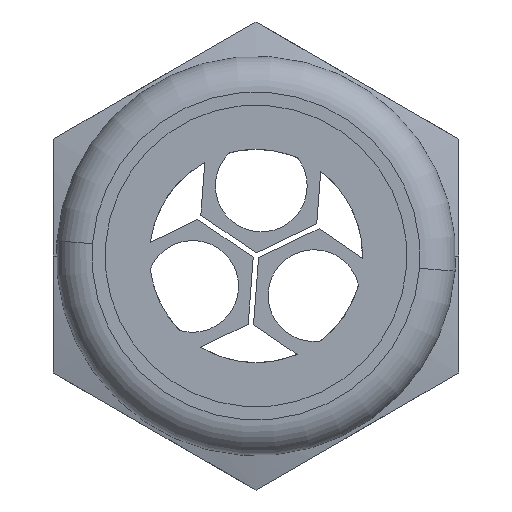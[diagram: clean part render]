
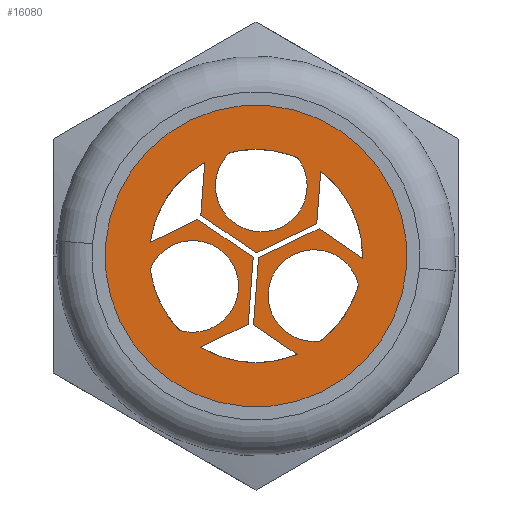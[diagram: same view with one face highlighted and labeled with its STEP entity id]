
A CAD part, left-side view. The second image highlights one B-rep face of the part: STEP entity #16080.
In plain terms, the highlighted planar face has unit normal (-1, 0, 0).
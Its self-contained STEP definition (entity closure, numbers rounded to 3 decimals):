
#100=CARTESIAN_POINT('',(-74.471,-192.811,
-8.545));
#110=VERTEX_POINT('',#100);
#290=CARTESIAN_POINT('',(-74.471,-190.835,
-6.969));
#300=VERTEX_POINT('',#290);
#330=CARTESIAN_POINT('',(-74.471,-198.006,
0.));
#340=DIRECTION('',(1.,0.,0.));
#350=DIRECTION('',(0.,0.,-1.));
#360=AXIS2_PLACEMENT_3D('',#330,#340,#350);
#370=CIRCLE('',#360,10.);
#380=CARTESIAN_POINT('',(-74.471,-188.084,
-1.248));
#390=VERTEX_POINT('',#380);
#400=EDGE_CURVE('',#300,#390,#370,.T.);
#580=CARTESIAN_POINT('',(-74.471,-188.088,
1.279));
#590=VERTEX_POINT('',#580);
#620=CARTESIAN_POINT('',(-74.471,-193.204,
8.771));
#630=VERTEX_POINT('',#620);
#640=EDGE_CURVE('',#590,#630,#370,.T.);
#870=CARTESIAN_POINT('',(-74.471,-195.556,
9.695));
#880=VERTEX_POINT('',#870);
#910=CARTESIAN_POINT('',(-74.471,-198.006,10.));
#920=VERTEX_POINT('',#910);
#930=EDGE_CURVE('',#880,#920,#370,.T.);
#1160=CARTESIAN_POINT('',(-74.471,-198.006,-10.));
#1170=VERTEX_POINT('',#1160);
#1200=EDGE_CURVE('',#1170,#110,#370,.T.);
#12880=CARTESIAN_POINT('',(-74.471,-198.244,
-0.163));
#12890=VERTEX_POINT('',#12880);
#13060=CARTESIAN_POINT('',(-74.471,-203.916,
2.564));
#13070=VERTEX_POINT('',#13060);
#13100=CARTESIAN_POINT('',(-74.471,-618.738,
201.992));
#13110=DIRECTION('',(0.,0.901,
-0.433));
#13120=VECTOR('',#13110,1.);
#13130=LINE('',#13100,#13120);
#13140=EDGE_CURVE('',#13070,#12890,#13130,.T.);
#14420=CARTESIAN_POINT('',(-74.471,-206.825,
-7.785));
#14430=DIRECTION('',(-1.,-0.,0.));
#14440=DIRECTION('',(0.,-1.,0.));
#14450=AXIS2_PLACEMENT_3D('',#14420,#14430,#14440);
#14460=PLANE('',#14450);
#14470=CARTESIAN_POINT('',(-74.471,-198.006,
0.));
#14480=DIRECTION('',(1.,0.,0.));
#14490=DIRECTION('',(0.,0.997,
0.075));
#14500=AXIS2_PLACEMENT_3D('',#14470,#14480,#14490);
#14510=CIRCLE('',#14500,14.15);
#14520=CARTESIAN_POINT('',(-74.471,-183.896,
1.067));
#14530=VERTEX_POINT('',#14520);
#14540=CARTESIAN_POINT('',(-74.471,-212.116,
-1.067));
#14550=VERTEX_POINT('',#14540);
#14560=EDGE_CURVE('',#14530,#14550,#14510,.T.);
#14570=ORIENTED_EDGE('',*,*,#14560,.F.);
#14580=EDGE_CURVE('',#14550,#14530,#14510,.T.);
#14590=ORIENTED_EDGE('',*,*,#14580,.F.);
#14600=EDGE_LOOP('',(#14590,#14570));
#14610=FACE_OUTER_BOUND('',#14600,.T.);
#14620=CARTESIAN_POINT('',(-74.471,-203.44,
-0.411));
#14630=DIRECTION('',(0.,-0.075,
0.997));
#14640=VECTOR('',#14630,1.);
#14650=LINE('',#14620,#14640);
#14660=CARTESIAN_POINT('',(-74.471,-203.699,
3.015));
#14670=VERTEX_POINT('',#14660);
#14680=CARTESIAN_POINT('',(-74.471,-204.073,
7.95));
#14690=VERTEX_POINT('',#14680);
#14700=EDGE_CURVE('',#14670,#14690,#14650,.T.);
#14710=ORIENTED_EDGE('',*,*,#14700,.T.);
#14720=CARTESIAN_POINT('',(-74.471,-618.782,
202.568));
#14730=DIRECTION('',(0.,-0.901,
0.433));
#14740=VECTOR('',#14730,1.);
#14750=LINE('',#14720,#14740);
#14760=CARTESIAN_POINT('',(-74.471,-198.028,
0.288));
#14770=VERTEX_POINT('',#14760);
#14780=EDGE_CURVE('',#14770,#14670,#14750,.T.);
#14790=ORIENTED_EDGE('',*,*,#14780,.T.);
#14800=CARTESIAN_POINT('',(-74.471,-583.585,
-262.956));
#14810=DIRECTION('',(0.,-0.826,
-0.564));
#14820=VECTOR('',#14810,1.);
#14830=LINE('',#14800,#14820);
#14840=CARTESIAN_POINT('',(-74.471,-192.83,
3.836));
#14850=VERTEX_POINT('',#14840);
#14860=EDGE_CURVE('',#14850,#14770,#14830,.T.);
#14870=ORIENTED_EDGE('',*,*,#14860,.T.);
#14880=CARTESIAN_POINT('',(-74.471,-192.571,
0.411));
#14890=DIRECTION('',(0.,0.075,
-0.997));
#14900=VECTOR('',#14890,1.);
#14910=LINE('',#14880,#14900);
#14920=EDGE_CURVE('',#630,#14850,#14910,.T.);
#14930=ORIENTED_EDGE('',*,*,#14920,.T.);
#14940=ORIENTED_EDGE('',*,*,#640,.T.);
#14950=CARTESIAN_POINT('',(-74.471,-619.234,
208.556));
#14960=DIRECTION('',(0.,0.901,
-0.433));
#14970=VECTOR('',#14960,1.);
#14980=LINE('',#14950,#14970);
#14990=CARTESIAN_POINT('',(-74.471,-192.549,
3.423));
#15000=VERTEX_POINT('',#14990);
#15010=EDGE_CURVE('',#15000,#590,#14980,.T.);
#15020=ORIENTED_EDGE('',*,*,#15010,.T.);
#15030=CARTESIAN_POINT('',(-74.471,-583.541,
-263.531));
#15040=DIRECTION('',(0.,0.826,
0.564));
#15050=VECTOR('',#15040,1.);
#15060=LINE('',#15030,#15050);
#15070=CARTESIAN_POINT('',(-74.471,-197.746,
-0.125));
#15080=VERTEX_POINT('',#15070);
#15090=EDGE_CURVE('',#15080,#15000,#15060,.T.);
#15100=ORIENTED_EDGE('',*,*,#15090,.T.);
#15110=CARTESIAN_POINT('',(-74.471,-197.757,
0.019));
#15120=DIRECTION('',(0.,-0.075,
0.997));
#15130=VECTOR('',#15120,1.);
#15140=LINE('',#15110,#15130);
#15150=CARTESIAN_POINT('',(-74.471,-197.271,
-6.4));
#15160=VERTEX_POINT('',#15150);
#15170=EDGE_CURVE('',#15160,#15080,#15140,.T.);
#15180=ORIENTED_EDGE('',*,*,#15170,.T.);
#15190=CARTESIAN_POINT('',(-74.471,-618.285,
196.005));
#15200=DIRECTION('',(0.,-0.901,
0.433));
#15210=VECTOR('',#15200,1.);
#15220=LINE('',#15190,#15210);
#15230=EDGE_CURVE('',#110,#15160,#15220,.T.);
#15240=ORIENTED_EDGE('',*,*,#15230,.T.);
#15250=ORIENTED_EDGE('',*,*,#1200,.T.);
#15260=CARTESIAN_POINT('',(-74.471,-201.857,
-9.229));
#15270=VERTEX_POINT('',#15260);
#15280=EDGE_CURVE('',#15270,#1170,#370,.T.);
#15290=ORIENTED_EDGE('',*,*,#15280,.T.);
#15300=CARTESIAN_POINT('',(-74.471,-583.088,
-269.519));
#15310=DIRECTION('',(0.,-0.826,
-0.564));
#15320=VECTOR('',#15310,1.);
#15330=LINE('',#15300,#15320);
#15340=CARTESIAN_POINT('',(-74.471,-197.77,
-6.438));
#15350=VERTEX_POINT('',#15340);
#15360=EDGE_CURVE('',#15350,#15270,#15330,.T.);
#15370=ORIENTED_EDGE('',*,*,#15360,.T.);
#15380=CARTESIAN_POINT('',(-74.471,-198.255,
-0.019));
#15390=DIRECTION('',(0.,0.075,
-0.997));
#15400=VECTOR('',#15390,1.);
#15410=LINE('',#15380,#15400);
#15420=EDGE_CURVE('',#12890,#15350,#15410,.T.);
#15430=ORIENTED_EDGE('',*,*,#15420,.T.);
#15440=ORIENTED_EDGE('',*,*,#13140,.T.);
#15450=CARTESIAN_POINT('',(-74.471,-584.037,
-256.968));
#15460=DIRECTION('',(0.,0.826,
0.564));
#15470=VECTOR('',#15460,1.);
#15480=LINE('',#15450,#15470);
#15490=CARTESIAN_POINT('',(-74.471,-208.003,
-0.227));
#15500=VERTEX_POINT('',#15490);
#15510=EDGE_CURVE('',#15500,#13070,#15480,.T.);
#15520=ORIENTED_EDGE('',*,*,#15510,.T.);
#15530=EDGE_CURVE('',#14690,#15500,#370,.T.);
#15540=ORIENTED_EDGE('',*,*,#15530,.T.);
#15550=EDGE_LOOP('',(#15540,#15520,#15440,#15430,#15370,#15290,#15250,
#15240,#15180,#15100,#15020,#14940,#14930,#14870,#14790,#14710));
#15560=FACE_BOUND('',#15550,.T.);
#15570=ORIENTED_EDGE('',*,*,#930,.T.);
#15580=CARTESIAN_POINT('',(-74.471,-198.502,
6.563));
#15590=DIRECTION('',(-1.,0.,0.));
#15600=DIRECTION('',(0.,-0.433,
-0.901));
#15610=AXIS2_PLACEMENT_3D('',#15580,#15590,#15600);
#15620=CIRCLE('',#15610,4.3);
#15630=CARTESIAN_POINT('',(-74.471,-200.365,
2.688));
#15640=VERTEX_POINT('',#15630);
#15650=EDGE_CURVE('',#880,#15640,#15620,.T.);
#15660=ORIENTED_EDGE('',*,*,#15650,.F.);
#15670=CARTESIAN_POINT('',(-74.471,-201.886,
9.217));
#15680=VERTEX_POINT('',#15670);
#15690=EDGE_CURVE('',#15640,#15680,#15620,.T.);
#15700=ORIENTED_EDGE('',*,*,#15690,.F.);
#15710=EDGE_CURVE('',#920,#15680,#370,.T.);
#15720=ORIENTED_EDGE('',*,*,#15710,.T.);
#15730=EDGE_LOOP('',(#15720,#15700,#15660,#15570));
#15740=FACE_BOUND('',#15730,.T.);
#15750=ORIENTED_EDGE('',*,*,#400,.T.);
#15760=CARTESIAN_POINT('',(-74.471,-192.074,
-2.852));
#15770=DIRECTION('',(-1.,0.,0.));
#15780=DIRECTION('',(0.,-0.564,
0.826));
#15790=AXIS2_PLACEMENT_3D('',#15760,#15770,#15780);
#15800=CIRCLE('',#15790,4.3);
#15810=CARTESIAN_POINT('',(-74.471,-194.499,
0.699));
#15820=VERTEX_POINT('',#15810);
#15830=EDGE_CURVE('',#300,#15820,#15800,.T.);
#15840=ORIENTED_EDGE('',*,*,#15830,.F.);
#15850=EDGE_CURVE('',#15820,#390,#15800,.T.);
#15860=ORIENTED_EDGE('',*,*,#15850,.F.);
#15870=EDGE_LOOP('',(#15860,#15840,#15750));
#15880=FACE_BOUND('',#15870,.T.);
#15890=CARTESIAN_POINT('',(-74.471,-203.442,
-3.711));
#15900=DIRECTION('',(-1.,0.,0.));
#15910=DIRECTION('',(0.,0.997,
0.075));
#15920=AXIS2_PLACEMENT_3D('',#15890,#15900,#15910);
#15930=CIRCLE('',#15920,4.3);
#15940=CARTESIAN_POINT('',(-74.471,-207.627,
-2.726));
#15950=VERTEX_POINT('',#15940);
#15960=CARTESIAN_POINT('',(-74.471,-199.154,
-3.387));
#15970=VERTEX_POINT('',#15960);
#15980=EDGE_CURVE('',#15950,#15970,#15930,.T.);
#15990=ORIENTED_EDGE('',*,*,#15980,.F.);
#16000=CARTESIAN_POINT('',(-74.471,-204.048,
-7.968));
#16010=VERTEX_POINT('',#16000);
#16020=EDGE_CURVE('',#15970,#16010,#15930,.T.);
#16030=ORIENTED_EDGE('',*,*,#16020,.F.);
#16040=EDGE_CURVE('',#15950,#16010,#370,.T.);
#16050=ORIENTED_EDGE('',*,*,#16040,.T.);
#16060=EDGE_LOOP('',(#16050,#16030,#15990));
#16070=FACE_BOUND('',#16060,.T.);
#16080=ADVANCED_FACE('',(#14610,#15560,#15740,#15880,#16070),#14460,.T.)
;
